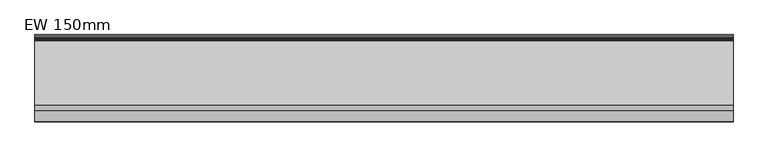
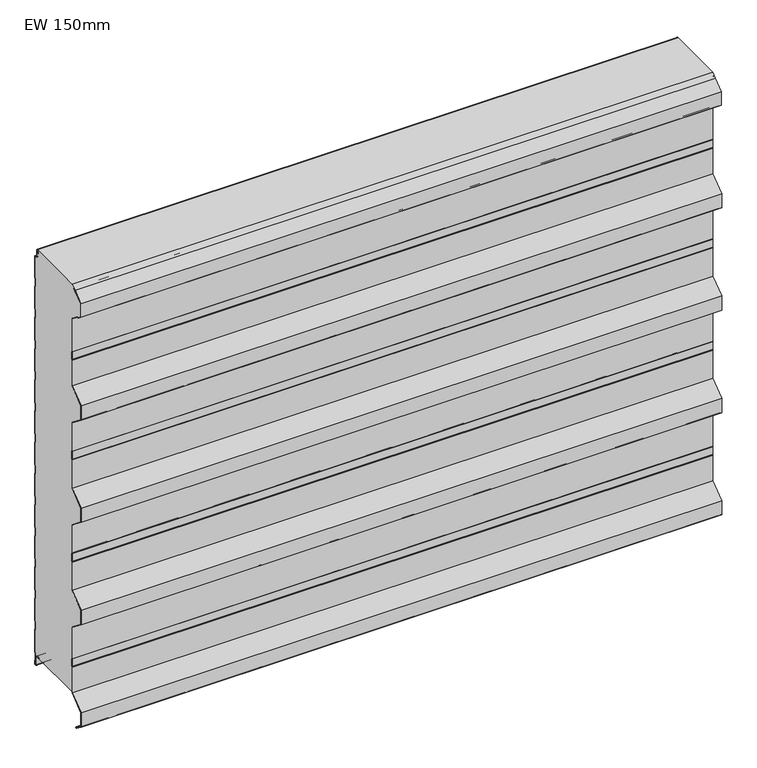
"""IFC4 building model written with IfcOpenShell, lengths in millimetres: plate geometry, KIP-MEX-KC-R19-CP-EW-SL : EW 150mm."""

from ifc_helpers import new_model, si_unit, point, frame, frame_2d, origin, place, context, project, spatial, polyline, circle_curve, trimmed, segment, composite_curve, outline, extrude, source, transform, mapped, element, save
from ifc_brep_helpers import plane_surface, cylinder_surface, revolved_surface, advanced_brep


def ew_150mm_34eb2ac0(model_context):
    return source(origin(), model_context, "Body", "SolidModel", [
        advanced_brep(
        [(-740.0, -160.0327477, 989.051258), (-740.0, -155.6292245, 991.4166419), (-740.0, -156.1011177, 992.2982989), (-740.0, -160.5823669, 989.8911639), (-740.0, -149.7971296, 998.3652789), (-740.0, -11.2514375, 998.3666923), (-740.0, -13.6351997, 996.0840542), (-740.0, -14.1562355, 990.2938452), (-740.0, -13.178913, 990.2059002), (-740.0, -12.6629632, 995.9395891), (-740.0, -10.8760369, 997.3642752), (-740.0, -8.8936988, 995.9342793), (-740.0, -7.4885937, 979.8720443), (-740.0, -4.5000049, 977.1334803), (-740.0, -1.0, 977.1334803), (-740.0, -1.0, 924.1786391), (-740.0, -2.2002307, 922.7930062), (-740.0, -2.2002307, 903.4178399), (-740.0, -1.0, 902.0322069), (-740.0, -1.0, 847.9787915), (-740.0, -2.2002307, 846.5931586), (-740.0, -2.2002307, 827.2179923), (-740.0, -1.0, 825.8323593), (-740.0, -1.0, 771.7789439), (-740.0, -2.2002307, 770.393311), (-740.0, -2.2002307, 751.0181447), (-740.0, -1.0, 749.6325117), (-740.0, -1.0, 695.5790963), (-740.0, -2.2002307, 694.1934634), (-740.0, -2.2002307, 674.8182971), (-740.0, -1.0, 673.4326641), (-740.0, -1.0, 619.3792487), (-740.0, -2.2002307, 617.9936158), (-740.0, -2.2002307, 598.6184495), (-740.0, -1.0, 597.2328165), (-740.0, -1.0, 543.1794011), (-740.0, -2.2002307, 541.7937682), (-740.0, -2.2002307, 522.4186019), (-740.0, -1.0, 521.0329689), (-740.0, -1.0, 466.9795535), (-740.0, -2.2002307, 465.5939206), (-740.0, -2.2002307, 446.2187543), (-740.0, -1.0, 444.8331213), (-740.0, -1.0, 390.7797059), (-740.0, -2.2002307, 389.394073), (-740.0, -2.2002307, 370.0189067), (-740.0, -1.0, 368.6332737), (-740.0, -1.0, 314.5798583), (-740.0, -2.2002307, 313.1942254), (-740.0, -2.2002307, 293.8190591), (-740.0, -1.0, 292.4334261), (-740.0, -1.0, 238.3800107), (-740.0, -2.2002307, 236.9943778), (-740.0, -2.2002307, 217.6192115), (-740.0, -1.0, 216.2335785), (-740.0, -1.0, 162.1801631), (-740.0, -2.2002307, 160.7945302), (-740.0, -2.2002307, 141.4193639), (-740.0, -1.0, 140.0337309), (-740.0, -1.0, 85.9803155), (-740.0, -2.2002307, 84.5946826), (-740.0, -2.2002307, 65.2195163), (-740.0, -1.0, 63.8338833), (-740.0, -1.0, 9.7804679), (-740.0, -2.2002307, 8.394835), (-740.0, -2.2002307, -10.9803313), (-740.0, -0.9999916, -12.365974), (-740.0, -0.9999916, -20.8675386), (-740.0, -2.4999198, -20.8675386), (-740.0, -4.9998241, -18.3676343), (-740.0, -4.9998241, -0.3670493), (-740.0, -7.998082, 2.6333088), (-740.0, -11.5943952, 2.6333088), (-740.0, -13.0725686, 3.8746028), (-740.0, -13.6943971, 7.4169376), (-740.0, -14.6793372, 7.2440392), (-740.0, -14.0575086, 3.7017037), (-740.0, -11.5958694, 1.6333077), (-740.0, -149.0, 1.6333077), (-740.0, -149.0, 62.1559418), (-740.0, -147.9999989, 63.5702249), (-740.0, -147.9999989, 82.7777465), (-740.0, -149.0, 84.1920296), (-740.0, -149.0, 160.6910066), (-740.0, -184.000038, 188.1910365), (-740.0, -184.000038, 222.2190039), (-740.0, -149.0, 249.7190337), (-740.0, -149.0, 319.1871119), (-740.0, -147.9999989, 320.601395), (-740.0, -147.9999989, 339.8089167), (-740.0, -149.0, 341.2231997), (-740.0, -149.0, 410.6912779), (-740.0, -184.000038, 438.1913078), (-740.0, -184.000038, 472.2192752), (-740.0, -149.0, 499.719305), (-740.0, -149.0, 569.1090864), (-740.0, -147.9999989, 570.1732653), (-740.0, -147.9999989, 589.809188), (-740.0, -149.0, 591.2234711), (-740.0, -149.0, 660.6915492), (-740.0, -184.000038, 688.1915791), (-740.0, -184.000038, 722.2195465), (-740.0, -149.0, 749.7195763), (-740.0, -149.0, 812.1567557), (-740.0, -147.9999989, 813.5710388), (-740.0, -147.9999989, 832.7785605), (-740.0, -149.0, 834.1928435), (-740.0, -149.0, 914.6918249), (-740.0, -169.3814311, 930.7058064), (-740.0, -173.199617, 930.7058064), (-740.0, -183.0000369, 938.4061363), (-740.0, -183.0000369, 971.0055308), (740.0, -160.0327477, 989.051258), (740.0, -183.0000369, 971.0055308), (740.0, -183.0000369, 938.4061363), (740.0, -173.199617, 930.7058064), (740.0, -169.3814311, 930.7058064), (740.0, -149.0, 914.6918249), (740.0, -149.0, 834.1928435), (740.0, -147.9999989, 832.7785605), (740.0, -147.9999989, 813.5710388), (740.0, -149.0, 812.1567557), (740.0, -149.0, 749.7195763), (740.0, -184.000038, 722.2195465), (740.0, -184.000038, 688.1915791), (740.0, -149.0, 660.6915492), (740.0, -149.0, 591.2234711), (740.0, -147.9999989, 589.809188), (740.0, -147.9999989, 570.1732653), (740.0, -149.0, 569.1090864), (740.0, -149.0, 499.719305), (740.0, -184.000038, 472.2192752), (740.0, -184.000038, 438.1913078), (740.0, -149.0, 410.6912779), (740.0, -149.0, 341.2231997), (740.0, -147.9999989, 339.8089167), (740.0, -147.9999989, 320.601395), (740.0, -149.0, 319.1871119), (740.0, -149.0, 249.7190337), (740.0, -184.000038, 222.2190039), (740.0, -184.000038, 188.1910365), (740.0, -149.0, 160.6910066), (740.0, -149.0, 84.1920296), (740.0, -147.9999989, 82.7777465), (740.0, -147.9999989, 63.5702249), (740.0, -149.0, 62.1559418), (740.0, -149.0, 1.6333077), (740.0, -11.5958694, 1.6333077), (740.0, -14.0575086, 3.7017037), (740.0, -14.6793372, 7.2440392), (740.0, -13.6943971, 7.4169376), (740.0, -13.0725686, 3.8746028), (740.0, -11.5943952, 2.6333088), (740.0, -7.998082, 2.6333088), (740.0, -4.9998241, -0.3670493), (740.0, -4.9998241, -18.3676343), (740.0, -2.4999198, -20.8675386), (740.0, -0.9999916, -20.8675386), (740.0, -0.9999916, -12.365974), (740.0, -2.2002307, -10.9803313), (740.0, -2.2002307, 8.394835), (740.0, -1.0, 9.7804679), (740.0, -1.0, 63.8338833), (740.0, -2.2002307, 65.2195163), (740.0, -2.2002307, 84.5946826), (740.0, -1.0, 85.9803155), (740.0, -1.0, 140.0337309), (740.0, -2.2002307, 141.4193639), (740.0, -2.2002307, 160.7945302), (740.0, -1.0, 162.1801631), (740.0, -1.0, 216.2335785), (740.0, -2.2002307, 217.6192115), (740.0, -2.2002307, 236.9943778), (740.0, -1.0, 238.3800107), (740.0, -1.0, 292.4334261), (740.0, -2.2002307, 293.8190591), (740.0, -2.2002307, 313.1942254), (740.0, -1.0, 314.5798583), (740.0, -1.0, 368.6332737), (740.0, -2.2002307, 370.0189067), (740.0, -2.2002307, 389.394073), (740.0, -1.0, 390.7797059), (740.0, -1.0, 444.8331213), (740.0, -2.2002307, 446.2187543), (740.0, -2.2002307, 465.5939206), (740.0, -1.0, 466.9795535), (740.0, -1.0, 521.0329689), (740.0, -2.2002307, 522.4186019), (740.0, -2.2002307, 541.7937682), (740.0, -1.0, 543.1794011), (740.0, -1.0, 597.2328165), (740.0, -2.2002307, 598.6184495), (740.0, -2.2002307, 617.9936158), (740.0, -1.0, 619.3792487), (740.0, -1.0, 673.4326641), (740.0, -2.2002307, 674.8182971), (740.0, -2.2002307, 694.1934634), (740.0, -1.0, 695.5790963), (740.0, -1.0, 749.6325117), (740.0, -2.2002307, 751.0181447), (740.0, -2.2002307, 770.393311), (740.0, -1.0, 771.7789439), (740.0, -1.0, 825.8323593), (740.0, -2.2002307, 827.2179923), (740.0, -2.2002307, 846.5931586), (740.0, -1.0, 847.9787915), (740.0, -1.0, 902.0322069), (740.0, -2.2002307, 903.4178399), (740.0, -2.2002307, 922.7930062), (740.0, -1.0, 924.1786391), (740.0, -1.0, 977.1334803), (740.0, -4.5000049, 977.1334803), (740.0, -7.4885937, 979.8720443), (740.0, -8.8936988, 995.9342793), (740.0, -10.8760369, 997.3642752), (740.0, -12.6629632, 995.9395891), (740.0, -13.178913, 990.2059002), (740.0, -14.1562355, 990.2938452), (740.0, -13.6351997, 996.0840542), (740.0, -11.2514375, 998.3666923), (740.0, -149.7971296, 998.3652789), (740.0, -160.5823669, 989.8911639), (740.0, -156.1011177, 992.2982989), (740.0, -155.6292245, 991.4166419)],
        [
            (0, 1),
            (1, 2),
            (2, 3),
            (3, 4),
            (4, 5),
            (5, 6, circle_curve(frame((-740.0, -10.8441969, 995.5554081), z_axis=(1.0, 0.0, 0.0), x_axis=(0.0, -1.0, 0.0)), 2.8406273)),
            (6, 7),
            (7, 8),
            (8, 9),
            (9, 10, circle_curve(frame((-740.0, -10.8991179, 995.560247), z_axis=(-1.0, 0.0, 0.0), x_axis=(0.0, -1.0, 0.0)), 1.8041759)),
            (10, 11, circle_curve(frame((-740.0, -10.6928483, 995.5292107), z_axis=(-1.0, 0.0, 0.0), x_axis=(0.0, -1.0, 0.0)), 1.8441854)),
            (11, 12),
            (12, 13, circle_curve(frame((-740.0, -4.5000049, 980.1334825), z_axis=(1.0, 0.0, 0.0), x_axis=(0.0, -1.0, 0.0)), 3.0000022)),
            (13, 14),
            (14, 15),
            (15, 16),
            (16, 17),
            (17, 18),
            (18, 19),
            (19, 20),
            (20, 21),
            (21, 22),
            (22, 23),
            (23, 24),
            (24, 25),
            (25, 26),
            (26, 27),
            (27, 28),
            (28, 29),
            (29, 30),
            (30, 31),
            (31, 32),
            (32, 33),
            (33, 34),
            (34, 35),
            (35, 36),
            (36, 37),
            (37, 38),
            (38, 39),
            (39, 40),
            (40, 41),
            (41, 42),
            (42, 43),
            (43, 44),
            (44, 45),
            (45, 46),
            (46, 47),
            (47, 48),
            (48, 49),
            (49, 50),
            (50, 51),
            (51, 52),
            (52, 53),
            (53, 54),
            (54, 55),
            (55, 56),
            (56, 57),
            (57, 58),
            (58, 59),
            (59, 60),
            (60, 61),
            (61, 62),
            (62, 63),
            (63, 64),
            (64, 65),
            (65, 66),
            (66, 67),
            (67, 68),
            (68, 69, circle_curve(frame((-740.0, -2.4999198, -18.3676343), z_axis=(-1.0, 0.0, 0.0), x_axis=(0.0, -1.0, 0.0)), 2.4999043)),
            (69, 70),
            (70, 71, circle_curve(frame((-740.0, -8.0001829, -0.3670493), z_axis=(1.0, 0.0, 0.0), x_axis=(0.0, -1.0, 0.0)), 3.0003589)),
            (71, 72),
            (72, 73, circle_curve(frame((-740.0, -11.5943952, 4.1340843), z_axis=(-1.0, 0.0, 0.0), x_axis=(0.0, -1.0, 0.0)), 1.5007755)),
            (73, 74),
            (74, 75),
            (75, 76),
            (76, 77, circle_curve(frame((-740.0, -11.5943948, 4.1340836), z_axis=(1.0, 0.0, 0.0), x_axis=(0.0, -1.0, 0.0)), 2.5007762)),
            (77, 78),
            (78, 79),
            (79, 80),
            (80, 81),
            (81, 82),
            (82, 83),
            (83, 84),
            (84, 85),
            (85, 86),
            (86, 87),
            (87, 88),
            (88, 89),
            (89, 90),
            (90, 91),
            (91, 92),
            (92, 93),
            (93, 94),
            (94, 95),
            (95, 96),
            (96, 97),
            (97, 98),
            (98, 99),
            (99, 100),
            (100, 101),
            (101, 102),
            (102, 103),
            (103, 104),
            (104, 105),
            (105, 106),
            (106, 107),
            (107, 108),
            (108, 109),
            (109, 110),
            (110, 111),
            (111, 0),
            (112, 113),
            (113, 114),
            (114, 115),
            (115, 116),
            (116, 117),
            (117, 118),
            (118, 119),
            (119, 120),
            (120, 121),
            (121, 122),
            (122, 123),
            (123, 124),
            (124, 125),
            (125, 126),
            (126, 127),
            (127, 128),
            (128, 129),
            (129, 130),
            (130, 131),
            (131, 132),
            (132, 133),
            (133, 134),
            (134, 135),
            (135, 136),
            (136, 137),
            (137, 138),
            (138, 139),
            (139, 140),
            (140, 141),
            (141, 142),
            (142, 143),
            (143, 144),
            (144, 145),
            (145, 146),
            (146, 147),
            (147, 148, circle_curve(frame((740.0, -11.5943948, 4.1340836), z_axis=(-1.0, 0.0, 0.0), x_axis=(0.0, -1.0, 0.0)), 2.5007762)),
            (148, 149),
            (149, 150),
            (150, 151),
            (151, 152, circle_curve(frame((740.0, -11.5943952, 4.1340843), z_axis=(1.0, 0.0, 0.0), x_axis=(0.0, -1.0, 0.0)), 1.5007755)),
            (152, 153),
            (153, 154, circle_curve(frame((740.0, -8.0001829, -0.3670493), z_axis=(-1.0, 0.0, 0.0), x_axis=(0.0, -1.0, 0.0)), 3.0003589)),
            (154, 155),
            (155, 156, circle_curve(frame((740.0, -2.4999198, -18.3676343), z_axis=(1.0, 0.0, 0.0), x_axis=(0.0, -1.0, 0.0)), 2.4999043)),
            (156, 157),
            (157, 158),
            (158, 159),
            (159, 160),
            (160, 161),
            (161, 162),
            (162, 163),
            (163, 164),
            (164, 165),
            (165, 166),
            (166, 167),
            (167, 168),
            (168, 169),
            (169, 170),
            (170, 171),
            (171, 172),
            (172, 173),
            (173, 174),
            (174, 175),
            (175, 176),
            (176, 177),
            (177, 178),
            (178, 179),
            (179, 180),
            (180, 181),
            (181, 182),
            (182, 183),
            (183, 184),
            (184, 185),
            (185, 186),
            (186, 187),
            (187, 188),
            (188, 189),
            (189, 190),
            (190, 191),
            (191, 192),
            (192, 193),
            (193, 194),
            (194, 195),
            (195, 196),
            (196, 197),
            (197, 198),
            (198, 199),
            (199, 200),
            (200, 201),
            (201, 202),
            (202, 203),
            (203, 204),
            (204, 205),
            (205, 206),
            (206, 207),
            (207, 208),
            (208, 209),
            (209, 210),
            (210, 211),
            (211, 212, circle_curve(frame((740.0, -4.5000049, 980.1334825), z_axis=(-1.0, 0.0, 0.0), x_axis=(0.0, -1.0, 0.0)), 3.0000022)),
            (212, 213),
            (213, 214, circle_curve(frame((740.0, -10.6928483, 995.5292107), z_axis=(1.0, 0.0, 0.0), x_axis=(0.0, -1.0, 0.0)), 1.8441854)),
            (214, 215, circle_curve(frame((740.0, -10.8991179, 995.560247), z_axis=(1.0, 0.0, 0.0), x_axis=(0.0, -1.0, 0.0)), 1.8041759)),
            (215, 216),
            (216, 217),
            (217, 218),
            (218, 219, circle_curve(frame((740.0, -10.8441969, 995.5554081), z_axis=(-1.0, 0.0, 0.0), x_axis=(0.0, -1.0, 0.0)), 2.8406273)),
            (219, 220),
            (220, 221),
            (221, 222),
            (222, 223),
            (223, 112),
            (0, 112),
            (223, 1),
            (111, 113),
            (110, 114),
            (109, 115),
            (108, 116),
            (107, 117),
            (106, 118),
            (105, 119),
            (104, 120),
            (103, 121),
            (102, 122),
            (101, 123),
            (100, 124),
            (99, 125),
            (98, 126),
            (97, 127),
            (96, 128),
            (95, 129),
            (94, 130),
            (93, 131),
            (92, 132),
            (91, 133),
            (90, 134),
            (89, 135),
            (88, 136),
            (87, 137),
            (86, 138),
            (85, 139),
            (84, 140),
            (83, 141),
            (82, 142),
            (81, 143),
            (80, 144),
            (79, 145),
            (78, 146),
            (2, 222),
            (221, 3),
            (220, 4),
            (219, 5),
            (77, 147),
            (73, 151),
            (150, 74),
            (72, 152),
            (71, 153),
            (70, 154),
            (69, 155),
            (68, 156),
            (67, 157),
            (13, 211),
            (210, 14),
            (12, 212),
            (11, 213),
            (10, 214),
            (9, 215),
            (8, 216),
            (7, 217),
            (6, 218),
            (76, 148),
            (75, 149),
            (66, 158),
            (65, 159),
            (64, 160),
            (63, 161),
            (62, 162),
            (61, 163),
            (60, 164),
            (59, 165),
            (58, 166),
            (57, 167),
            (56, 168),
            (55, 169),
            (54, 170),
            (53, 171),
            (52, 172),
            (51, 173),
            (50, 174),
            (49, 175),
            (48, 176),
            (47, 177),
            (46, 178),
            (45, 179),
            (44, 180),
            (43, 181),
            (42, 182),
            (41, 183),
            (40, 184),
            (39, 185),
            (38, 186),
            (37, 187),
            (36, 188),
            (35, 189),
            (34, 190),
            (33, 191),
            (32, 192),
            (31, 193),
            (30, 194),
            (29, 195),
            (28, 196),
            (27, 197),
            (26, 198),
            (25, 199),
            (24, 200),
            (23, 201),
            (22, 202),
            (21, 203),
            (20, 204),
            (19, 205),
            (18, 206),
            (17, 207),
            (16, 208),
            (15, 209),
        ],
        [
            plane_surface(frame((-740.0, -149.0, 500.0), z_axis=(-1.0, 0.0, 0.0), x_axis=(0.0, -1.0, 0.0))),
            plane_surface(frame((740.0, -149.0, 500.0), z_axis=(1.0, 0.0, 0.0), x_axis=(0.0, -1.0, 0.0))),
            plane_surface(frame((-740.0, -155.6292245, 991.4166419), z_axis=(0.0, -0.4732087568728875, 0.8809503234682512), x_axis=(1.0, 0.0, 0.0))),
            plane_surface(frame((-740.0, -160.0327477, 989.051258), z_axis=(0.0, -0.6178215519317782, 0.7863183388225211), x_axis=(1.0, 0.0, 0.0))),
            plane_surface(frame((-740.0, -183.0000369, 971.0055308), z_axis=(0.0, -1.0, 0.0), x_axis=(1.0, 0.0, 0.0))),
            plane_surface(frame((-740.0, -183.0000369, 938.4061363), z_axis=(0.0, -0.6178215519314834, -0.7863183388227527), x_axis=(1.0, 0.0, 0.0))),
            plane_surface(frame((-740.0, -173.199617, 930.7058064), z_axis=(0.0, 0.0, -1.0), x_axis=(1.0, 0.0, 0.0))),
            plane_surface(frame((-740.0, -169.3814311, 930.7058064), z_axis=(0.0, -0.6178215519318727, -0.786318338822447), x_axis=(1.0, 0.0, 0.0))),
            plane_surface(frame((-740.0, -149.0, 914.6918249), z_axis=(0.0, -1.0, 0.0), x_axis=(1.0, 0.0, 0.0))),
            plane_surface(frame((-740.0, -149.0, 834.1928435), z_axis=(0.0, -0.8165096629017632, -0.577331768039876), x_axis=(1.0, 0.0, 0.0))),
            plane_surface(frame((-740.0, -147.9999989, 832.7785605), z_axis=(0.0, -1.0, 0.0), x_axis=(1.0, 0.0, 0.0))),
            plane_surface(frame((-740.0, -147.9999989, 813.5710388), z_axis=(0.0, -0.816509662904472, 0.5773317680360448), x_axis=(1.0, 0.0, 0.0))),
            plane_surface(frame((-740.0, -149.0, 812.1567557), z_axis=(0.0, -1.0, 0.0), x_axis=(1.0, 0.0, 0.0))),
            plane_surface(frame((-740.0, -149.0, 749.7195763), z_axis=(0.0, -0.6178215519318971, 0.7863183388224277), x_axis=(1.0, 0.0, 0.0))),
            plane_surface(frame((-740.0, -184.000038, 722.2195465), z_axis=(0.0, -1.0, 0.0), x_axis=(1.0, 0.0, 0.0))),
            plane_surface(frame((-740.0, -184.000038, 688.1915791), z_axis=(0.0, -0.6178215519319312, -0.7863183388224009), x_axis=(1.0, 0.0, 0.0))),
            plane_surface(frame((-740.0, -149.0, 660.6915492), z_axis=(0.0, -1.0, 0.0), x_axis=(1.0, 0.0, 0.0))),
            plane_surface(frame((-740.0, -149.0, 591.2234711), z_axis=(0.0, -0.8165096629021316, -0.577331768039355), x_axis=(1.0, 0.0, 0.0))),
            plane_surface(frame((-740.0, -147.9999989, 589.809188), z_axis=(0.0, -1.0, 0.0), x_axis=(1.0, 0.0, 0.0))),
            plane_surface(frame((-740.0, -147.9999989, 570.1732653), z_axis=(0.0, -0.7287394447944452, 0.6847910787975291), x_axis=(1.0, 0.0, 0.0))),
            plane_surface(frame((-740.0, -149.0, 569.1090864), z_axis=(0.0, -1.0, 0.0), x_axis=(1.0, 0.0, 0.0))),
            plane_surface(frame((-740.0, -149.0, 499.719305), z_axis=(0.0, -0.6178215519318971, 0.7863183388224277), x_axis=(1.0, 0.0, 0.0))),
            plane_surface(frame((-740.0, -184.000038, 472.2192752), z_axis=(0.0, -1.0, 0.0), x_axis=(1.0, 0.0, 0.0))),
            plane_surface(frame((-740.0, -184.000038, 438.1913078), z_axis=(0.0, -0.6178215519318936, -0.7863183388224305), x_axis=(1.0, 0.0, 0.0))),
            plane_surface(frame((-740.0, -149.0, 410.6912779), z_axis=(0.0, -1.0, 0.0), x_axis=(1.0, 0.0, 0.0))),
            plane_surface(frame((-740.0, -149.0, 341.2231997), z_axis=(0.0, -0.8165096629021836, -0.5773317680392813), x_axis=(1.0, 0.0, 0.0))),
            plane_surface(frame((-740.0, -147.9999989, 339.8089167), z_axis=(0.0, -1.0, 0.0), x_axis=(1.0, 0.0, 0.0))),
            plane_surface(frame((-740.0, -147.9999989, 320.601395), z_axis=(0.0, -0.8165096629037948, 0.5773317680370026), x_axis=(1.0, 0.0, 0.0))),
            plane_surface(frame((-740.0, -149.0, 319.1871119), z_axis=(0.0, -1.0, 0.0), x_axis=(1.0, 0.0, 0.0))),
            plane_surface(frame((-740.0, -149.0, 249.7190337), z_axis=(0.0, -0.6178215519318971, 0.7863183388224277), x_axis=(1.0, 0.0, 0.0))),
            plane_surface(frame((-740.0, -184.000038, 222.2190039), z_axis=(0.0, -1.0, 0.0), x_axis=(1.0, 0.0, 0.0))),
            plane_surface(frame((-740.0, -184.000038, 188.1910365), z_axis=(0.0, -0.6178215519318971, -0.7863183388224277), x_axis=(1.0, 0.0, 0.0))),
            plane_surface(frame((-740.0, -149.0, 160.6910066), z_axis=(0.0, -1.0, 0.0), x_axis=(1.0, 0.0, 0.0))),
            plane_surface(frame((-740.0, -149.0, 84.1920296), z_axis=(0.0, -0.8165096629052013, -0.5773317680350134), x_axis=(1.0, 0.0, 0.0))),
            plane_surface(frame((-740.0, -147.9999989, 82.7777465), z_axis=(0.0, -1.0, 0.0), x_axis=(1.0, 0.0, 0.0))),
            plane_surface(frame((-740.0, -147.9999989, 63.5702249), z_axis=(0.0, -0.8165096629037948, 0.5773317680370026), x_axis=(1.0, 0.0, 0.0))),
            plane_surface(frame((-740.0, -149.0, 62.1559418), z_axis=(0.0, -1.0, 0.0), x_axis=(1.0, 0.0, 0.0))),
            plane_surface(frame((-740.0, -160.5823669, 989.8911639), z_axis=(0.0, 0.47320875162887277, -0.8809503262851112), x_axis=(1.0, 0.0, 0.0))),
            plane_surface(frame((-740.0, -156.1011177, 992.2982989), z_axis=(0.0, -0.8816559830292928, -0.47189270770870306), x_axis=(1.0, 0.0, 0.0))),
            plane_surface(frame((-740.0, -149.7971296, 998.3652789), z_axis=(0.0, -0.617821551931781, 0.786318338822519), x_axis=(1.0, 0.0, 0.0))),
            plane_surface(frame((-740.0, -144.8065083, 998.3652789), z_axis=(0.0, 0.0, 1.0), x_axis=(1.0, 0.0, 0.0))),
            plane_surface(frame((-740.0, -149.0, 1.6333077), z_axis=(0.0, 0.0, -1.0), x_axis=(1.0, 0.0, 0.0))),
            plane_surface(frame((-740.0, -13.6943971, 7.4169376), z_axis=(0.0, -0.9849396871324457, -0.17289827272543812), x_axis=(1.0, 0.0, 0.0))),
            cylinder_surface(frame((-740.0, -11.5943952, 4.1340843), z_axis=(-1.0, 0.0, 0.0), x_axis=(0.0, -1.0, 0.0)), 1.5007755),
            plane_surface(frame((-740.0, -11.5943952, 2.6333088), z_axis=(0.0, 0.0, -1.0), x_axis=(1.0, 0.0, 0.0))),
            revolved_surface(polyline([(740.0, -11.0005418, -0.3670493), (-740.0, -11.0005418, -0.3670493)]), (-740.0, -8.0001829, -0.3670493), (1.0, 0.0, 0.0)),
            plane_surface(frame((-740.0, -4.9998241, -0.3670493), z_axis=(0.0, -1.0, 0.0), x_axis=(1.0, 0.0, 0.0))),
            cylinder_surface(frame((-740.0, -2.4999198, -18.3676343), z_axis=(-1.0, 0.0, 0.0), x_axis=(0.0, -1.0, 0.0)), 2.4999043),
            plane_surface(frame((-740.0, -2.4999198, -20.8675386), z_axis=(0.0, 0.0, -1.0), x_axis=(1.0, 0.0, 0.0))),
            plane_surface(frame((-740.0, -1.0, 977.1334803), z_axis=(0.0, 0.0, 1.0), x_axis=(1.0, 0.0, 0.0))),
            revolved_surface(polyline([(740.0, -7.5000071, 980.1334825), (-740.0, -7.5000071, 980.1334825)]), (-740.0, -4.5000049, 980.1334825), (1.0, 0.0, 0.0)),
            plane_surface(frame((-740.0, -7.4885937, 979.8720443), z_axis=(0.0, 0.9961955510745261, 0.08714599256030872), x_axis=(1.0, 0.0, 0.0))),
            cylinder_surface(frame((-740.0, -10.6928483, 995.5292107), z_axis=(-1.0, 0.0, 0.0), x_axis=(0.0, -1.0, 0.0)), 1.8441854),
            cylinder_surface(frame((-740.0, -10.8991179, 995.560247), z_axis=(-1.0, 0.0, 0.0), x_axis=(0.0, -1.0, 0.0)), 1.8041759),
            plane_surface(frame((-740.0, -12.6629632, 995.9395891), z_axis=(0.0, -0.9959757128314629, 0.08962354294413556), x_axis=(1.0, 0.0, 0.0))),
            plane_surface(frame((-740.0, -13.178913, 990.2059002), z_axis=(0.0, 0.0896235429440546, 0.9959757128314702), x_axis=(1.0, 0.0, 0.0))),
            plane_surface(frame((-740.0, -14.1562355, 990.2938452), z_axis=(0.0, 0.9959757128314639, -0.08962354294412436), x_axis=(1.0, 0.0, 0.0))),
            revolved_surface(polyline([(740.0, -13.6848242, 995.5554081), (-740.0, -13.6848242, 995.5554081)]), (-740.0, -10.8441969, 995.5554081), (1.0, 0.0, 0.0)),
            revolved_surface(polyline([(740.0, -14.095171, 4.1340836), (-740.0, -14.095171, 4.1340836)]), (-740.0, -11.5943948, 4.1340836), (1.0, 0.0, 0.0)),
            plane_surface(frame((-740.0, -14.0575086, 3.7017037), z_axis=(0.0, 0.9849396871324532, 0.17289827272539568), x_axis=(1.0, 0.0, 0.0))),
            plane_surface(frame((-740.0, -14.6793372, 7.2440392), z_axis=(0.0, 0.17289827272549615, -0.9849396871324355), x_axis=(1.0, 0.0, 0.0))),
            plane_surface(frame((-740.0, -0.9999916, -20.8675386), z_axis=(0.0, 1.0, 0.0), x_axis=(1.0, 0.0, 0.0))),
            plane_surface(frame((-740.0, -0.9999916, -12.365974), z_axis=(0.0, 0.7558648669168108, 0.6547276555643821), x_axis=(1.0, 0.0, 0.0))),
            plane_surface(frame((-740.0, -2.2002307, -10.9803313), z_axis=(0.0, 1.0, 0.0), x_axis=(1.0, 0.0, 0.0))),
            plane_surface(frame((-740.0, -2.2002307, 8.394835), z_axis=(0.0, 0.7558648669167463, -0.6547276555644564), x_axis=(1.0, 0.0, 0.0))),
            plane_surface(frame((-740.0, -1.0, 9.7804679), z_axis=(0.0, 1.0, 0.0), x_axis=(1.0, 0.0, 0.0))),
            plane_surface(frame((-740.0, -1.0, 63.8338833), z_axis=(0.0, 0.7558648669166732, 0.6547276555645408), x_axis=(1.0, 0.0, 0.0))),
            plane_surface(frame((-740.0, -2.2002307, 65.2195163), z_axis=(0.0, 1.0, 0.0), x_axis=(1.0, 0.0, 0.0))),
            plane_surface(frame((-740.0, -2.2002307, 84.5946826), z_axis=(0.0, 0.7558648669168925, -0.6547276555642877), x_axis=(1.0, 0.0, 0.0))),
            plane_surface(frame((-740.0, -1.0, 85.9803155), z_axis=(0.0, 1.0, 0.0), x_axis=(1.0, 0.0, 0.0))),
            plane_surface(frame((-740.0, -1.0, 140.0337309), z_axis=(0.0, 0.7558648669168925, 0.6547276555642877), x_axis=(1.0, 0.0, 0.0))),
            plane_surface(frame((-740.0, -2.2002307, 141.4193639), z_axis=(0.0, 1.0, 0.0), x_axis=(1.0, 0.0, 0.0))),
            plane_surface(frame((-740.0, -2.2002307, 160.7945302), z_axis=(0.0, 0.7558648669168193, -0.6547276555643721), x_axis=(1.0, 0.0, 0.0))),
            plane_surface(frame((-740.0, -1.0, 162.1801631), z_axis=(0.0, 1.0, 0.0), x_axis=(1.0, 0.0, 0.0))),
            plane_surface(frame((-740.0, -1.0, 216.2335785), z_axis=(0.0, 0.7558648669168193, 0.6547276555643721), x_axis=(1.0, 0.0, 0.0))),
            plane_surface(frame((-740.0, -2.2002307, 217.6192115), z_axis=(0.0, 1.0, 0.0), x_axis=(1.0, 0.0, 0.0))),
            plane_surface(frame((-740.0, -2.2002307, 236.9943778), z_axis=(0.0, 0.7558648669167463, -0.6547276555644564), x_axis=(1.0, 0.0, 0.0))),
            plane_surface(frame((-740.0, -1.0, 238.3800107), z_axis=(0.0, 1.0, 0.0), x_axis=(1.0, 0.0, 0.0))),
            plane_surface(frame((-740.0, -1.0, 292.4334261), z_axis=(0.0, 0.7558648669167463, 0.6547276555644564), x_axis=(1.0, 0.0, 0.0))),
            plane_surface(frame((-740.0, -2.2002307, 293.8190591), z_axis=(0.0, 1.0, 0.0), x_axis=(1.0, 0.0, 0.0))),
            plane_surface(frame((-740.0, -2.2002307, 313.1942254), z_axis=(0.0, 0.7558648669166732, -0.6547276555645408), x_axis=(1.0, 0.0, 0.0))),
            plane_surface(frame((-740.0, -1.0, 314.5798583), z_axis=(0.0, 1.0, 0.0), x_axis=(1.0, 0.0, 0.0))),
            plane_surface(frame((-740.0, -1.0, 368.6332737), z_axis=(0.0, 0.7558648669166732, 0.6547276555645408), x_axis=(1.0, 0.0, 0.0))),
            plane_surface(frame((-740.0, -2.2002307, 370.0189067), z_axis=(0.0, 1.0, 0.0), x_axis=(1.0, 0.0, 0.0))),
            plane_surface(frame((-740.0, -2.2002307, 389.394073), z_axis=(0.0, 0.755864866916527, -0.6547276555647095), x_axis=(1.0, 0.0, 0.0))),
            plane_surface(frame((-740.0, -1.0, 390.7797059), z_axis=(0.0, 1.0, 0.0), x_axis=(1.0, 0.0, 0.0))),
            plane_surface(frame((-740.0, -1.0, 444.8331213), z_axis=(0.0, 0.755864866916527, 0.6547276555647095), x_axis=(1.0, 0.0, 0.0))),
            plane_surface(frame((-740.0, -2.2002307, 446.2187543), z_axis=(0.0, 1.0, 0.0), x_axis=(1.0, 0.0, 0.0))),
            plane_surface(frame((-740.0, -2.2002307, 465.5939206), z_axis=(0.0, 0.755864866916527, -0.6547276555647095), x_axis=(1.0, 0.0, 0.0))),
            plane_surface(frame((-740.0, -1.0, 466.9795535), z_axis=(0.0, 1.0, 0.0), x_axis=(1.0, 0.0, 0.0))),
            plane_surface(frame((-740.0, -1.0, 521.0329689), z_axis=(0.0, 0.755864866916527, 0.6547276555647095), x_axis=(1.0, 0.0, 0.0))),
            plane_surface(frame((-740.0, -2.2002307, 522.4186019), z_axis=(0.0, 1.0, 0.0), x_axis=(1.0, 0.0, 0.0))),
            plane_surface(frame((-740.0, -2.2002307, 541.7937682), z_axis=(0.0, 0.7558648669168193, -0.6547276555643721), x_axis=(1.0, 0.0, 0.0))),
            plane_surface(frame((-740.0, -1.0, 543.1794011), z_axis=(0.0, 1.0, 0.0), x_axis=(1.0, 0.0, 0.0))),
            plane_surface(frame((-740.0, -1.0, 597.2328165), z_axis=(0.0, 0.7558648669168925, 0.6547276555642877), x_axis=(1.0, 0.0, 0.0))),
            plane_surface(frame((-740.0, -2.2002307, 598.6184495), z_axis=(0.0, 1.0, 0.0), x_axis=(1.0, 0.0, 0.0))),
            plane_surface(frame((-740.0, -2.2002307, 617.9936158), z_axis=(0.0, 0.7558648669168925, -0.6547276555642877), x_axis=(1.0, 0.0, 0.0))),
            plane_surface(frame((-740.0, -1.0, 619.3792487), z_axis=(0.0, 1.0, 0.0), x_axis=(1.0, 0.0, 0.0))),
            plane_surface(frame((-740.0, -1.0, 673.4326641), z_axis=(0.0, 0.7558648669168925, 0.6547276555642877), x_axis=(1.0, 0.0, 0.0))),
            plane_surface(frame((-740.0, -2.2002307, 674.8182971), z_axis=(0.0, 1.0, 0.0), x_axis=(1.0, 0.0, 0.0))),
            plane_surface(frame((-740.0, -2.2002307, 694.1934634), z_axis=(0.0, 0.7558648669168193, -0.6547276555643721), x_axis=(1.0, 0.0, 0.0))),
            plane_surface(frame((-740.0, -1.0, 695.5790963), z_axis=(0.0, 1.0, 0.0), x_axis=(1.0, 0.0, 0.0))),
            plane_surface(frame((-740.0, -1.0, 749.6325117), z_axis=(0.0, 0.7558648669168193, 0.6547276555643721), x_axis=(1.0, 0.0, 0.0))),
            plane_surface(frame((-740.0, -2.2002307, 751.0181447), z_axis=(0.0, 1.0, 0.0), x_axis=(1.0, 0.0, 0.0))),
            plane_surface(frame((-740.0, -2.2002307, 770.393311), z_axis=(0.0, 0.7558648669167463, -0.6547276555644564), x_axis=(1.0, 0.0, 0.0))),
            plane_surface(frame((-740.0, -1.0, 771.7789439), z_axis=(0.0, 1.0, 0.0), x_axis=(1.0, 0.0, 0.0))),
            plane_surface(frame((-740.0, -1.0, 825.8323593), z_axis=(0.0, 0.7558648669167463, 0.6547276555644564), x_axis=(1.0, 0.0, 0.0))),
            plane_surface(frame((-740.0, -2.2002307, 827.2179923), z_axis=(0.0, 1.0, 0.0), x_axis=(1.0, 0.0, 0.0))),
            plane_surface(frame((-740.0, -2.2002307, 846.5931586), z_axis=(0.0, 0.7558648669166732, -0.6547276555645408), x_axis=(1.0, 0.0, 0.0))),
            plane_surface(frame((-740.0, -1.0, 847.9787915), z_axis=(0.0, 1.0, 0.0), x_axis=(1.0, 0.0, 0.0))),
            plane_surface(frame((-740.0, -1.0, 902.0322069), z_axis=(0.0, 0.7558648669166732, 0.6547276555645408), x_axis=(1.0, 0.0, 0.0))),
            plane_surface(frame((-740.0, -2.2002307, 903.4178399), z_axis=(0.0, 1.0, 0.0), x_axis=(1.0, 0.0, 0.0))),
            plane_surface(frame((-740.0, -2.2002307, 922.7930062), z_axis=(0.0, 0.7558648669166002, -0.6547276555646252), x_axis=(1.0, 0.0, 0.0))),
            plane_surface(frame((-740.0, -1.0, 924.1786391), z_axis=(0.0, 1.0, 0.0), x_axis=(1.0, 0.0, 0.0))),
        ],
        [
            (0, [[1, 2, 3, 4, 5, 6, 7, 8, 9, 10, 11, 12, 13, 14, 15, 16, 17, 18, 19, 20, 21, 22, 23, 24, 25, 26, 27, 28, 29, 30, 31, 32, 33, 34, 35, 36, 37, 38, 39, 40, 41, 42, 43, 44, 45, 46, 47, 48, 49, 50, 51, 52, 53, 54, 55, 56, 57, 58, 59, 60, 61, 62, 63, 64, 65, 66, 67, 68, 69, 70, 71, 72, 73, 74, 75, 76, 77, 78, 79, 80, 81, 82, 83, 84, 85, 86, 87, 88, 89, 90, 91, 92, 93, 94, 95, 96, 97, 98, 99, 100, 101, 102, 103, 104, 105, 106, 107, 108, 109, 110, 111, 112]]),
            (1, [[113, 114, 115, 116, 117, 118, 119, 120, 121, 122, 123, 124, 125, 126, 127, 128, 129, 130, 131, 132, 133, 134, 135, 136, 137, 138, 139, 140, 141, 142, 143, 144, 145, 146, 147, 148, 149, 150, 151, 152, 153, 154, 155, 156, 157, 158, 159, 160, 161, 162, 163, 164, 165, 166, 167, 168, 169, 170, 171, 172, 173, 174, 175, 176, 177, 178, 179, 180, 181, 182, 183, 184, 185, 186, 187, 188, 189, 190, 191, 192, 193, 194, 195, 196, 197, 198, 199, 200, 201, 202, 203, 204, 205, 206, 207, 208, 209, 210, 211, 212, 213, 214, 215, 216, 217, 218, 219, 220, 221, 222, 223, 224]]),
            (2, [[225, -224, 226, -1]]),
            (3, [[227, -113, -225, -112]]),
            (4, [[228, -114, -227, -111]]),
            (5, [[229, -115, -228, -110]]),
            (6, [[230, -116, -229, -109]]),
            (7, [[231, -117, -230, -108]]),
            (8, [[232, -118, -231, -107]]),
            (9, [[233, -119, -232, -106]]),
            (10, [[234, -120, -233, -105]]),
            (11, [[235, -121, -234, -104]]),
            (12, [[236, -122, -235, -103]]),
            (13, [[237, -123, -236, -102]]),
            (14, [[238, -124, -237, -101]]),
            (15, [[239, -125, -238, -100]]),
            (16, [[240, -126, -239, -99]]),
            (17, [[241, -127, -240, -98]]),
            (18, [[242, -128, -241, -97]]),
            (19, [[243, -129, -242, -96]]),
            (20, [[244, -130, -243, -95]]),
            (21, [[245, -131, -244, -94]]),
            (22, [[246, -132, -245, -93]]),
            (23, [[247, -133, -246, -92]]),
            (24, [[248, -134, -247, -91]]),
            (25, [[249, -135, -248, -90]]),
            (26, [[250, -136, -249, -89]]),
            (27, [[251, -137, -250, -88]]),
            (28, [[252, -138, -251, -87]]),
            (29, [[253, -139, -252, -86]]),
            (30, [[254, -140, -253, -85]]),
            (31, [[255, -141, -254, -84]]),
            (32, [[256, -142, -255, -83]]),
            (33, [[257, -143, -256, -82]]),
            (34, [[258, -144, -257, -81]]),
            (35, [[259, -145, -258, -80]]),
            (36, [[260, -146, -259, -79]]),
            (37, [[261, -222, 262, -3]]),
            (38, [[-226, -223, -261, -2]]),
            (39, [[-262, -221, 263, -4]]),
            (40, [[-263, -220, 264, -5]]),
            (41, [[265, -147, -260, -78]]),
            (42, [[266, -151, 267, -74]]),
            (43, [[268, -152, -266, -73]]),
            (44, [[269, -153, -268, -72]]),
            (45, [[270, -154, -269, -71]]),
            (46, [[271, -155, -270, -70]]),
            (47, [[272, -156, -271, -69]]),
            (48, [[273, -157, -272, -68]]),
            (49, [[274, -211, 275, -14]]),
            (50, [[276, -212, -274, -13]]),
            (51, [[277, -213, -276, -12]]),
            (52, [[278, -214, -277, -11]]),
            (53, [[279, -215, -278, -10]]),
            (54, [[280, -216, -279, -9]]),
            (55, [[281, -217, -280, -8]]),
            (56, [[282, -218, -281, -7]]),
            (57, [[-264, -219, -282, -6]]),
            (58, [[283, -148, -265, -77]]),
            (59, [[284, -149, -283, -76]]),
            (60, [[-267, -150, -284, -75]]),
            (61, [[285, -158, -273, -67]]),
            (62, [[286, -159, -285, -66]]),
            (63, [[287, -160, -286, -65]]),
            (64, [[288, -161, -287, -64]]),
            (65, [[289, -162, -288, -63]]),
            (66, [[290, -163, -289, -62]]),
            (67, [[291, -164, -290, -61]]),
            (68, [[292, -165, -291, -60]]),
            (69, [[293, -166, -292, -59]]),
            (70, [[294, -167, -293, -58]]),
            (71, [[295, -168, -294, -57]]),
            (72, [[296, -169, -295, -56]]),
            (73, [[297, -170, -296, -55]]),
            (74, [[298, -171, -297, -54]]),
            (75, [[299, -172, -298, -53]]),
            (76, [[300, -173, -299, -52]]),
            (77, [[301, -174, -300, -51]]),
            (78, [[302, -175, -301, -50]]),
            (79, [[303, -176, -302, -49]]),
            (80, [[304, -177, -303, -48]]),
            (81, [[305, -178, -304, -47]]),
            (82, [[306, -179, -305, -46]]),
            (83, [[307, -180, -306, -45]]),
            (84, [[308, -181, -307, -44]]),
            (85, [[309, -182, -308, -43]]),
            (86, [[310, -183, -309, -42]]),
            (87, [[311, -184, -310, -41]]),
            (88, [[312, -185, -311, -40]]),
            (89, [[313, -186, -312, -39]]),
            (90, [[314, -187, -313, -38]]),
            (91, [[315, -188, -314, -37]]),
            (92, [[316, -189, -315, -36]]),
            (93, [[317, -190, -316, -35]]),
            (94, [[318, -191, -317, -34]]),
            (95, [[319, -192, -318, -33]]),
            (96, [[320, -193, -319, -32]]),
            (97, [[321, -194, -320, -31]]),
            (98, [[322, -195, -321, -30]]),
            (99, [[323, -196, -322, -29]]),
            (100, [[324, -197, -323, -28]]),
            (101, [[325, -198, -324, -27]]),
            (102, [[326, -199, -325, -26]]),
            (103, [[327, -200, -326, -25]]),
            (104, [[328, -201, -327, -24]]),
            (105, [[329, -202, -328, -23]]),
            (106, [[330, -203, -329, -22]]),
            (107, [[331, -204, -330, -21]]),
            (108, [[332, -205, -331, -20]]),
            (109, [[333, -206, -332, -19]]),
            (110, [[334, -207, -333, -18]]),
            (111, [[335, -208, -334, -17]]),
            (112, [[336, -209, -335, -16]]),
            (113, [[-275, -210, -336, -15]]),
        ],
    ),
        extrude(outline(composite_curve([segment(trimmed(circle_curve(frame_2d((-1.4999961, 976.6334814)), 1.4999961), [point((-1.4999961, 978.1334775))], [point((0.0, 976.6334814))], False, "CARTESIAN"), True, "CONTINUOUS"), segment(polyline([(0.0, 976.6334814), (0.0, 924.3277902)]), True, "CONTINUOUS"), segment(trimmed(circle_curve(frame_2d((-1.3999972, 924.3277902)), 1.3999972), [point((0.0, 924.3277902))], [point((-0.3417885, 923.4111733))], False, "CARTESIAN"), True, "CONTINUOUS"), segment(polyline([(-0.3417885, 923.4111733), (-1.2002307, 922.4201257), (-1.2002307, 903.7907203), (-0.3417885, 902.7996726)]), True, "CONTINUOUS"), segment(trimmed(circle_curve(frame_2d((-1.3999972, 901.8830557)), 1.3999972), [point((-0.3417885, 902.7996726))], [point((0.0, 901.8830557))], False, "CARTESIAN"), True, "CONTINUOUS"), segment(polyline([(0.0, 901.8830557), (0.0, 848.1279426)]), True, "CONTINUOUS"), segment(trimmed(circle_curve(frame_2d((-1.3999972, 848.1279426)), 1.3999972), [point((0.0, 848.1279426))], [point((-0.3417885, 847.2113257))], False, "CARTESIAN"), True, "CONTINUOUS"), segment(polyline([(-0.3417885, 847.2113257), (-1.2002307, 846.2202781), (-1.2002307, 827.5908727), (-0.3417885, 826.599825)]), True, "CONTINUOUS"), segment(trimmed(circle_curve(frame_2d((-1.3999972, 825.6832081)), 1.3999972), [point((-0.3417885, 826.599825))], [point((0.0, 825.6832081))], False, "CARTESIAN"), True, "CONTINUOUS"), segment(polyline([(0.0, 825.6832081), (0.0, 771.928095)]), True, "CONTINUOUS"), segment(trimmed(circle_curve(frame_2d((-1.3999972, 771.928095)), 1.3999972), [point((0.0, 771.928095))], [point((-0.3417885, 771.0114781))], False, "CARTESIAN"), True, "CONTINUOUS"), segment(polyline([(-0.3417885, 771.0114781), (-1.2002307, 770.0204305), (-1.2002307, 751.3910251), (-0.3417885, 750.3999774)]), True, "CONTINUOUS"), segment(trimmed(circle_curve(frame_2d((-1.3999972, 749.4833605)), 1.3999972), [point((-0.3417885, 750.3999774))], [point((0.0, 749.4833605))], False, "CARTESIAN"), True, "CONTINUOUS"), segment(polyline([(0.0, 749.4833605), (0.0, 695.7282474)]), True, "CONTINUOUS"), segment(trimmed(circle_curve(frame_2d((-1.3999972, 695.7282474)), 1.3999972), [point((0.0, 695.7282474))], [point((-0.3417885, 694.8116305))], False, "CARTESIAN"), True, "CONTINUOUS"), segment(polyline([(-0.3417885, 694.8116305), (-1.2002307, 693.8205829), (-1.2002307, 675.1911775), (-0.3417885, 674.2001298)]), True, "CONTINUOUS"), segment(trimmed(circle_curve(frame_2d((-1.3999972, 673.2835129)), 1.3999972), [point((-0.3417885, 674.2001298))], [point((0.0, 673.2835129))], False, "CARTESIAN"), True, "CONTINUOUS"), segment(polyline([(0.0, 673.2835129), (0.0, 619.5283998)]), True, "CONTINUOUS"), segment(trimmed(circle_curve(frame_2d((-1.3999972, 619.5283998)), 1.3999972), [point((0.0, 619.5283998))], [point((-0.3417885, 618.6117829))], False, "CARTESIAN"), True, "CONTINUOUS"), segment(polyline([(-0.3417885, 618.6117829), (-1.2002307, 617.6207353), (-1.2002307, 598.9913299), (-0.3417885, 598.0002822)]), True, "CONTINUOUS"), segment(trimmed(circle_curve(frame_2d((-1.3999972, 597.0836653)), 1.3999972), [point((-0.3417885, 598.0002822))], [point((0.0, 597.0836653))], False, "CARTESIAN"), True, "CONTINUOUS"), segment(polyline([(0.0, 597.0836653), (0.0, 543.3285522)]), True, "CONTINUOUS"), segment(trimmed(circle_curve(frame_2d((-1.3999972, 543.3285522)), 1.3999972), [point((0.0, 543.3285522))], [point((-0.3417885, 542.4119353))], False, "CARTESIAN"), True, "CONTINUOUS"), segment(polyline([(-0.3417885, 542.4119353), (-1.2002307, 541.4208877), (-1.2002307, 522.7914823), (-0.3417885, 521.8004346)]), True, "CONTINUOUS"), segment(trimmed(circle_curve(frame_2d((-1.3999972, 520.8838177)), 1.3999972), [point((-0.3417885, 521.8004346))], [point((0.0, 520.8838177))], False, "CARTESIAN"), True, "CONTINUOUS"), segment(polyline([(0.0, 520.8838177), (0.0, 467.1287046)]), True, "CONTINUOUS"), segment(trimmed(circle_curve(frame_2d((-1.3999972, 467.1287046)), 1.3999972), [point((0.0, 467.1287046))], [point((-0.3417885, 466.2120877))], False, "CARTESIAN"), True, "CONTINUOUS"), segment(polyline([(-0.3417885, 466.2120877), (-1.2002307, 465.2210401), (-1.2002307, 446.5916347), (-0.3417885, 445.600587)]), True, "CONTINUOUS"), segment(trimmed(circle_curve(frame_2d((-1.3999972, 444.6839701)), 1.3999972), [point((-0.3417885, 445.600587))], [point((0.0, 444.6839701))], False, "CARTESIAN"), True, "CONTINUOUS"), segment(polyline([(0.0, 444.6839701), (0.0, 390.928857)]), True, "CONTINUOUS"), segment(trimmed(circle_curve(frame_2d((-1.3999972, 390.928857)), 1.3999972), [point((0.0, 390.928857))], [point((-0.3417885, 390.0122401))], False, "CARTESIAN"), True, "CONTINUOUS"), segment(polyline([(-0.3417885, 390.0122401), (-1.2002307, 389.0211925), (-1.2002307, 370.3917871), (-0.3417885, 369.4007394)]), True, "CONTINUOUS"), segment(trimmed(circle_curve(frame_2d((-1.3999972, 368.4841225)), 1.3999972), [point((-0.3417885, 369.4007394))], [point((0.0, 368.4841225))], False, "CARTESIAN"), True, "CONTINUOUS"), segment(polyline([(0.0, 368.4841225), (0.0, 314.7290094)]), True, "CONTINUOUS"), segment(trimmed(circle_curve(frame_2d((-1.3999972, 314.7290094)), 1.3999972), [point((0.0, 314.7290094))], [point((-0.3417885, 313.8123925))], False, "CARTESIAN"), True, "CONTINUOUS"), segment(polyline([(-0.3417885, 313.8123925), (-1.2002307, 312.8213449), (-1.2002307, 294.1919395), (-0.3417885, 293.2008918)]), True, "CONTINUOUS"), segment(trimmed(circle_curve(frame_2d((-1.3999972, 292.2842749)), 1.3999972), [point((-0.3417885, 293.2008918))], [point((0.0, 292.2842749))], False, "CARTESIAN"), True, "CONTINUOUS"), segment(polyline([(0.0, 292.2842749), (0.0, 238.5291618)]), True, "CONTINUOUS"), segment(trimmed(circle_curve(frame_2d((-1.3999972, 238.5291618)), 1.3999972), [point((0.0, 238.5291618))], [point((-0.3417885, 237.6125449))], False, "CARTESIAN"), True, "CONTINUOUS"), segment(polyline([(-0.3417885, 237.6125449), (-1.2002307, 236.6214973), (-1.2002307, 217.9920919), (-0.3417885, 217.0010442)]), True, "CONTINUOUS"), segment(trimmed(circle_curve(frame_2d((-1.3999972, 216.0844273)), 1.3999972), [point((-0.3417885, 217.0010442))], [point((0.0, 216.0844273))], False, "CARTESIAN"), True, "CONTINUOUS"), segment(polyline([(0.0, 216.0844273), (0.0, 162.3293142)]), True, "CONTINUOUS"), segment(trimmed(circle_curve(frame_2d((-1.3999972, 162.3293142)), 1.3999972), [point((0.0, 162.3293142))], [point((-0.3417885, 161.4126973))], False, "CARTESIAN"), True, "CONTINUOUS"), segment(polyline([(-0.3417885, 161.4126973), (-1.2002307, 160.4216497), (-1.2002307, 141.7922443), (-0.3417885, 140.8011966)]), True, "CONTINUOUS"), segment(trimmed(circle_curve(frame_2d((-1.3999972, 139.8845797)), 1.3999972), [point((-0.3417885, 140.8011966))], [point((0.0, 139.8845797))], False, "CARTESIAN"), True, "CONTINUOUS"), segment(polyline([(0.0, 139.8845797), (0.0, 86.1294666)]), True, "CONTINUOUS"), segment(trimmed(circle_curve(frame_2d((-1.3999972, 86.1294666)), 1.3999972), [point((0.0, 86.1294666))], [point((-0.3417885, 85.2128497))], False, "CARTESIAN"), True, "CONTINUOUS"), segment(polyline([(-0.3417885, 85.2128497), (-1.2002307, 84.2218021), (-1.2002307, 65.5923967), (-0.3417885, 64.601349)]), True, "CONTINUOUS"), segment(trimmed(circle_curve(frame_2d((-1.3999972, 63.6847321)), 1.3999972), [point((-0.3417885, 64.601349))], [point((0.0, 63.6847321))], False, "CARTESIAN"), True, "CONTINUOUS"), segment(polyline([(0.0, 63.6847321), (0.0, 9.929619)]), True, "CONTINUOUS"), segment(trimmed(circle_curve(frame_2d((-1.3999972, 9.929619)), 1.3999972), [point((0.0, 9.929619))], [point((-0.3417885, 9.0130021))], False, "CARTESIAN"), True, "CONTINUOUS"), segment(polyline([(-0.3417885, 9.0130021), (-1.2002307, 8.0219545), (-1.2002307, -10.6074509), (-0.3417885, -11.5984986)]), True, "CONTINUOUS"), segment(trimmed(circle_curve(frame_2d((-1.3999972, -12.5151155)), 1.3999972), [point((-0.3417885, -11.5984986))], [point((0.0, -12.5151155))], False, "CARTESIAN"), True, "CONTINUOUS"), segment(polyline([(0.0, -12.5151155), (0.0, -20.3675812)]), True, "CONTINUOUS"), segment(trimmed(circle_curve(frame_2d((-1.4999795, -20.3675812)), 1.4999795), [point((0.0, -20.3675812))], [point((-1.4999795, -21.8675607))], False, "CARTESIAN"), True, "CONTINUOUS"), segment(polyline([(-1.4999795, -21.8675607), (-2.4999032, -21.8675607)]), True, "CONTINUOUS"), segment(trimmed(circle_curve(frame_2d((-2.4999032, -18.3676454)), 3.4999153), [point((-2.4999032, -21.8675607))], [point((-5.9998185, -18.3676454))], False, "CARTESIAN"), True, "CONTINUOUS"), segment(polyline([(-5.9998185, -18.3676454), (-5.9998185, -0.3670479)]), True, "CONTINUOUS"), segment(trimmed(circle_curve(frame_2d((-8.0001747, -0.3670479)), 2.0003562), [point((-5.9998185, -0.3670479))], [point((-7.9986755, 1.6333077))], True, "CARTESIAN"), True, "CONTINUOUS"), segment(polyline([(-7.9986755, 1.6333077), (-11.5958583, 1.6333077)]), True, "CONTINUOUS"), segment(trimmed(circle_curve(frame_2d((-11.5943838, 4.1340836)), 2.5007763), [point((-11.5958583, 1.6333077))], [point((-14.0574976, 3.7017037))], False, "CARTESIAN"), True, "CONTINUOUS"), segment(polyline([(-14.0574976, 3.7017037), (-14.6793261, 7.2440392), (-13.694386, 7.4169375), (-13.0725576, 3.8746027)]), True, "CONTINUOUS"), segment(trimmed(circle_curve(frame_2d((-11.5943841, 4.1340842)), 1.5007756), [point((-13.0725576, 3.8746027))], [point((-11.5943841, 2.6333086))], True, "CARTESIAN"), True, "CONTINUOUS"), segment(polyline([(-11.5943841, 2.6333086), (-7.9980709, 2.6333089)]), True, "CONTINUOUS"), segment(trimmed(circle_curve(frame_2d((-8.0001719, -0.3670493)), 3.0003589), [point((-7.9980709, 2.6333089))], [point((-4.999813, -0.3670493))], False, "CARTESIAN"), True, "CONTINUOUS"), segment(polyline([(-4.999813, -0.3670493), (-4.999813, -18.3676343)]), True, "CONTINUOUS"), segment(trimmed(circle_curve(frame_2d((-2.4999087, -18.3676343)), 2.4999043), [point((-4.999813, -18.3676343))], [point((-2.4999087, -20.8675386))], True, "CARTESIAN"), True, "CONTINUOUS"), segment(polyline([(-2.4999087, -20.8675386), (-0.9999889, -20.8675386), (-0.9999889, -12.3659771), (-2.2002307, -10.9803314), (-2.2002307, 8.3948349), (-1.0, 9.7804679), (-1.0, 63.8338833), (-2.2002307, 65.2195162), (-2.2002307, 84.5946825), (-1.0, 85.9803155), (-1.0, 140.0337309), (-2.2002307, 141.4193638), (-2.2002307, 160.7945301), (-1.0, 162.1801631), (-1.0, 216.2335785), (-2.2002307, 217.6192114), (-2.2002307, 236.9943777), (-1.0, 238.3800107), (-1.0, 292.4334261), (-2.2002307, 293.819059), (-2.2002307, 313.1942253), (-1.0, 314.5798583), (-1.0, 368.6332737), (-2.2002307, 370.0189066), (-2.2002307, 389.3940729), (-1.0, 390.7797059), (-1.0, 444.8331213), (-2.2002307, 446.2187542), (-2.2002307, 465.5939205), (-1.0, 466.9795535), (-1.0, 521.0329689), (-2.2002307, 522.4186018), (-2.2002307, 541.7937681), (-1.0, 543.1794011), (-1.0, 597.2328165), (-2.2002307, 598.6184494), (-2.2002307, 617.9936157), (-1.0, 619.3792487), (-1.0, 673.4326641), (-2.2002307, 674.818297), (-2.2002307, 694.1934633), (-1.0, 695.5790963), (-1.0, 749.6325117), (-2.2002307, 751.0181446), (-2.2002307, 770.3933109), (-1.0, 771.7789439), (-1.0, 825.8323593), (-2.2002307, 827.2179922), (-2.2002307, 846.5931585), (-1.0, 847.9787915), (-1.0, 902.0322069), (-2.2002307, 903.4178398), (-2.2002307, 922.7930061), (-1.0, 924.1786391), (-1.0, 977.1334803), (-4.4999938, 977.1334803)]), True, "CONTINUOUS"), segment(trimmed(circle_curve(frame_2d((-4.4999938, 980.1334825)), 3.0000022), [point((-4.4999938, 977.1334803))], [point((-7.4885801, 979.872015))], False, "CARTESIAN"), True, "CONTINUOUS"), segment(polyline([(-7.4885801, 979.872015), (-8.8939277, 995.935212)]), True, "CONTINUOUS"), segment(trimmed(circle_curve(frame_2d((-10.6947587, 995.5297649)), 1.8459089), [point((-8.8939277, 995.935212))], [point((-10.8781186, 997.3665444))], True, "CARTESIAN"), True, "CONTINUOUS"), segment(trimmed(circle_curve(frame_2d((-10.901237, 995.5596027)), 1.8070896), [point((-10.8781186, 997.3665444))], [point((-12.6679308, 995.9395575))], True, "CARTESIAN"), True, "CONTINUOUS"), segment(polyline([(-12.6679308, 995.9395575), (-13.1695258, 990.2063001), (-14.1657205, 990.2934558), (-13.6592878, 996.082008)]), True, "CONTINUOUS"), segment(trimmed(circle_curve(frame_2d((-10.901237, 995.5596027)), 2.8070896), [point((-13.6592878, 996.082008))], [point((-10.7811193, 998.3641211))], False, "CARTESIAN"), True, "CONTINUOUS"), segment(trimmed(circle_curve(frame_2d((-10.6752534, 995.5416287)), 2.8244771), [point((-10.7811193, 998.3641211))], [point((-7.9029509, 996.082008))], False, "CARTESIAN"), True, "CONTINUOUS"), segment(polyline([(-7.9029509, 996.082008), (-6.4923864, 979.9591695)]), True, "CONTINUOUS"), segment(trimmed(circle_curve(frame_2d((-4.4999933, 980.1334812)), 2.0000037), [point((-6.4923864, 979.9591695))], [point((-4.4999933, 978.1334775))], True, "CARTESIAN"), True, "CONTINUOUS"), segment(polyline([(-4.4999933, 978.1334775), (-1.4999961, 978.1334775)]), True, "CONTINUOUS")], self_intersect=False)), frame((-740.0, 0.0, 0.0), z_axis=(1.0, 0.0, 0.0), x_axis=(0.0, 1.0, 0.0)), (0.0, 0.0, 1.0), 1480.0),
        extrude(outline(composite_curve([segment(trimmed(circle_curve(frame_2d((-165.7875816, -75.4831487)), 1.5000016), [point((-165.338162, -74.0520558))], [point((-166.714315, -76.6626274))], False, "CARTESIAN"), True, "CONTINUOUS"), segment(polyline([(-166.714315, -76.6626274), (-185.000038, -62.2952701), (-185.000038, -27.2952321), (-150.0, 0.2047977), (-150.0, 62.4737665), (-148.9999989, 63.8880496), (-148.9999989, 82.4599218), (-150.0, 83.8742048), (-150.0, 160.2049713), (-185.000038, 187.7050012), (-185.000038, 222.7050392), (-150.0, 250.205069), (-150.0, 319.5049367), (-148.9999989, 320.9192198), (-148.9999989, 339.4910919), (-150.0, 340.905375), (-150.0, 410.2052426), (-185.000038, 437.7052725), (-185.000038, 472.7053105), (-150.0, 500.2053403), (-150.0, 569.505208), (-148.9999989, 570.5693869), (-148.9999989, 589.4913632), (-150.0, 590.9056463), (-150.0, 660.2055139), (-185.000038, 687.7055438), (-185.000038, 722.7055818), (-150.0, 750.2056116), (-150.0, 812.4745805), (-148.9999989, 813.8888635), (-148.9999989, 832.4607357), (-150.0, 833.8750188), (-150.0, 914.2057896), (-169.7272941, 929.7058064), (-173.5454801, 929.7058064), (-184.0000369, 937.920101), (-184.0000369, 971.491566), (-160.5823669, 989.8911639), (-156.1011177, 992.2982989), (-155.6292245, 991.4166419), (-160.0327477, 989.051258), (-183.0000369, 971.0055308), (-183.0000369, 938.4061363), (-173.199617, 930.7058064), (-169.3814311, 930.7058064), (-149.0, 914.6918249), (-149.0, 834.1928435), (-147.9999989, 832.7785605), (-147.9999989, 813.5710388), (-149.0, 812.1567557), (-149.0, 749.7195763), (-184.000038, 722.2195465), (-184.000038, 688.1915791), (-149.0, 660.6915492), (-149.0, 591.2234711), (-147.9999989, 589.809188), (-147.9999989, 570.1732653), (-149.0, 569.1090864), (-149.0, 499.719305), (-184.000038, 472.2192752), (-184.000038, 438.1913078), (-149.0, 410.6912779), (-149.0, 341.2231997), (-147.9999989, 339.8089167), (-147.9999989, 320.601395), (-149.0, 319.1871119), (-149.0, 249.7190337), (-184.000038, 222.2190039), (-184.000038, 188.1910365), (-149.0, 160.6910066), (-149.0, 84.1920296), (-147.9999989, 82.7777465), (-147.9999989, 63.5702249), (-149.0, 62.1559418), (-149.0, -0.2812376), (-184.000038, -27.7812674), (-184.000038, -61.8092349), (-169.3105941, -73.3509437), (-165.338162, -74.0520558)]), True, "CONTINUOUS")], self_intersect=False)), frame((-740.0, 0.0, 0.0), z_axis=(1.0, 0.0, 0.0), x_axis=(0.0, 1.0, 0.0)), (0.0, 0.0, 1.0), 1480.0),
    ])


if __name__ == "__main__":
    model = new_model("IFC4")
    model_context = context("Model", 3, world=origin())
    ifc_project = project(units=[si_unit("LENGTHUNIT", "METRE", prefix="MILLI")], contexts=[model_context])
    site = spatial("IfcSite", under=ifc_project)
    building = spatial("IfcBuilding", under=site)
    placement = place(None, origin())
    ew_150mm_shape = ew_150mm_34eb2ac0(model_context)
    element("IfcPlate", 1, ObjectType="KIP-MEX-KC-R19-CP-EW-SL : EW 150mm", at=placement, inside=building, context=model_context, shape_type="MappedRepresentation", body=[
        mapped(ew_150mm_shape, transform((0.0, 0.0, 0.0), x_axis=(1.0, 0.0, 0.0), y_axis=(0.0, 1.0, 0.0), z_axis=(0.0, 0.0, 1.0))),
    ])
    save(model, "model.ifc")
